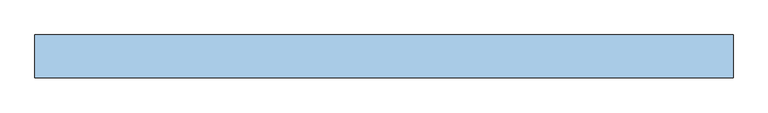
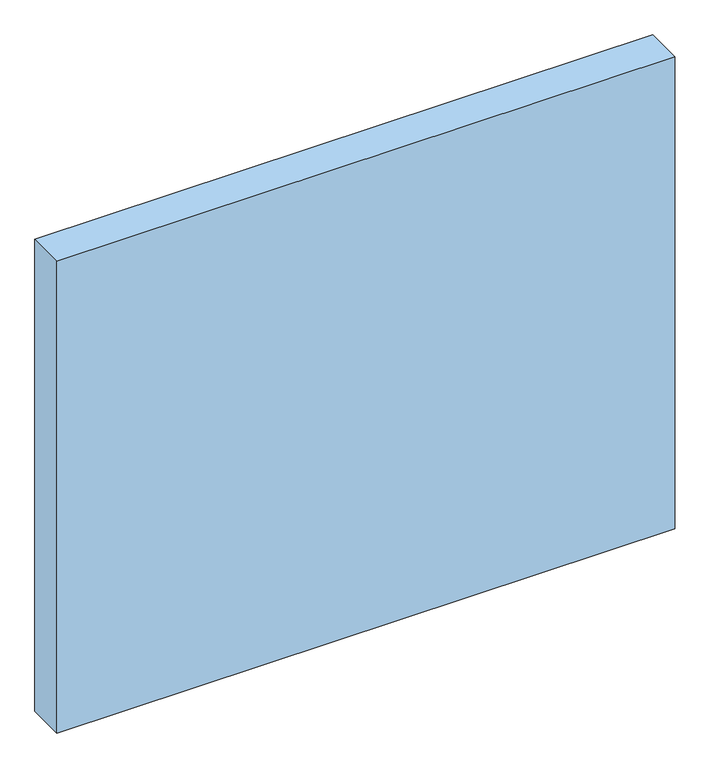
"""IFC4 building model written with IfcOpenShell, lengths in millimetres: window geometry, Dr_Проем-Четверти_окно : ОК."""

import ifcopenshell
import ifcopenshell.guid

model = None  # the IFC model being written
_history = None  # IfcOwnerHistory: only IFC2X3 demands one
_inside = {}  # id of a spatial element -> (the spatial element, [elements in it])
_under = {}  # id of a project, library or spatial element -> (it, [spatial elements below it])
_declared = {}  # id of a project -> (the project, [libraries it declares])
_typed = {}  # id of a type object -> (the type object, [elements of that type])
_made_of = {}  # id of a material, layer set ... -> (it, [elements and type objects made of it])


def new_model(schema):
    """Start an empty IFC model of exactly this schema.

    Asked for "IFC4X3", IfcOpenShell would pick the latest addendum, in which some entities
    have other attributes; the version numbers below select the first issue.
    IFC2X3 requires an IfcOwnerHistory on every rooted entity: one is made here for all.
    """
    global model, _history
    if schema == "IFC4X3":
        model = ifcopenshell.file(schema_version=(4, 3, 0, 0))
    else:
        model = ifcopenshell.file(schema=schema)
    _inside.clear()
    _under.clear()
    _declared.clear()
    _typed.clear()
    _made_of.clear()
    _history = None
    if model.schema == "IFC2X3":
        org = make("IfcOrganization", Name="unknown")
        user = make(
            "IfcPersonAndOrganization",
            ThePerson=make("IfcPerson", FamilyName="unknown"),
            TheOrganization=org,
        )
        app = make(
            "IfcApplication",
            ApplicationDeveloper=org,
            Version="unknown",
            ApplicationFullName="unknown",
            ApplicationIdentifier="unknown",
        )
        _history = make(
            "IfcOwnerHistory",
            OwningUser=user,
            OwningApplication=app,
            ChangeAction="ADDED",
            CreationDate=0,
        )
    return model


def make(cls, **values):
    """One entity of the class cls with the attributes given. An attribute that is None is left unset."""
    return model.create_entity(
        cls, **{name: value for name, value in values.items() if value is not None}
    )


def rooted(cls, **values):
    """An entity with a GlobalId (a new one), such as an element, a storey or a relation."""
    return make(cls, GlobalId=ifcopenshell.guid.new(), OwnerHistory=_history, **values)


def si_unit(unit_type, name, prefix=None):
    """IfcSIUnit, for example si_unit("LENGTHUNIT", "METRE", prefix="MILLI")."""
    return make("IfcSIUnit", UnitType=unit_type, Prefix=prefix, Name=name)


def assignment(units):
    """IfcUnitAssignment: the units of a project."""
    return None if units is None else make("IfcUnitAssignment", Units=units)


def point(xyz):
    """IfcCartesianPoint."""
    return None if xyz is None else make("IfcCartesianPoint", Coordinates=xyz)


def direction(xyz):
    """IfcDirection."""
    return None if xyz is None else make("IfcDirection", DirectionRatios=xyz)


def frame(location, z_axis=None, x_axis=None):
    """IfcAxis2Placement3D, a coordinate frame: its origin and axes. An axis left out is left unset."""
    return make(
        "IfcAxis2Placement3D",
        Location=point(location),
        Axis=direction(z_axis),
        RefDirection=direction(x_axis),
    )


def origin():
    """The frame at (0, 0, 0) with its axes left unset."""
    return frame((0.0, 0.0, 0.0))


def place(relative_to, where):
    """IfcLocalPlacement: puts the frame where relative to a parent placement (None: the world)."""
    return make(
        "IfcLocalPlacement", PlacementRelTo=relative_to, RelativePlacement=where
    )


def context(
    kind, dimensions, precision=None, world=None, true_north=None, identifier=None
):
    """IfcGeometricRepresentationContext, for example the 3D "Model" context."""
    return make(
        "IfcGeometricRepresentationContext",
        ContextIdentifier=identifier,
        ContextType=kind,
        CoordinateSpaceDimension=dimensions,
        Precision=precision,
        WorldCoordinateSystem=world,
        TrueNorth=true_north,
    )


def project(units=None, contexts=None):
    """IfcProject with its units and contexts."""
    return rooted(
        "IfcProject",
        Name="project",
        RepresentationContexts=contexts,
        UnitsInContext=assignment(units),
    )


def spatial(cls, under=None, at=None, **own):
    """A site, building, storey or space (cls), placed at a placement, below another one or the project."""
    s = rooted(cls, ObjectPlacement=at, **own)
    if under is not None:
        _under.setdefault(under.id(), (under, []))[1].append(s)
    return s


def polyline(points):
    """IfcPolyline through the points."""
    return make("IfcPolyline", Points=[point(p) for p in points])


def outline(outer, holes=None, kind="AREA"):
    """IfcArbitraryClosedProfileDef: a profile drawn as a closed curve; with holes, ...WithVoids."""
    if holes is None:
        return make("IfcArbitraryClosedProfileDef", ProfileType=kind, OuterCurve=outer)
    return make(
        "IfcArbitraryProfileDefWithVoids",
        ProfileType=kind,
        OuterCurve=outer,
        InnerCurves=holes,
    )


def extrude(swept, where, along, depth):
    """IfcExtrudedAreaSolid: the profile swept, set in the frame where, extruded along a direction by depth."""
    return make(
        "IfcExtrudedAreaSolid",
        SweptArea=swept,
        Position=where,
        ExtrudedDirection=direction(along),
        Depth=depth,
    )


def shape(context_of_items, identifier, shape_type, items):
    """IfcShapeRepresentation: the items that make up one representation, for example the "Body"."""
    return make(
        "IfcShapeRepresentation",
        ContextOfItems=context_of_items,
        RepresentationIdentifier=identifier,
        RepresentationType=shape_type,
        Items=items,
    )


def source(mapping_origin, context_of_items, identifier, shape_type, items):
    """IfcRepresentationMap: a shape defined once, which mapped items show again and again."""
    return make(
        "IfcRepresentationMap",
        MappingOrigin=mapping_origin,
        MappedRepresentation=shape(context_of_items, identifier, shape_type, items),
    )


def transform(
    local_origin,
    x_axis=None,
    y_axis=None,
    z_axis=None,
    scale=None,
    scale2=None,
    scale3=None,
    uniform=True,
):
    """IfcCartesianTransformationOperator3D, or its non-uniform kind. x_axis, y_axis, z_axis: its Axis1, 2, 3."""
    if uniform:
        return make(
            "IfcCartesianTransformationOperator3D",
            Axis1=direction(x_axis),
            Axis2=direction(y_axis),
            LocalOrigin=point(local_origin),
            Scale=scale,
            Axis3=direction(z_axis),
        )
    return make(
        "IfcCartesianTransformationOperator3DnonUniform",
        Axis1=direction(x_axis),
        Axis2=direction(y_axis),
        LocalOrigin=point(local_origin),
        Scale=scale,
        Axis3=direction(z_axis),
        Scale2=scale2,
        Scale3=scale3,
    )


def mapped(mapping_source, mapping_target):
    """IfcMappedItem: shows the shape of a source again, moved by a transform."""
    return make(
        "IfcMappedItem", MappingSource=mapping_source, MappingTarget=mapping_target
    )


def made_of(thing, what):
    """Note that an element or type object is made of a material, layer set ...; save() writes the relation."""
    if what is not None:
        _made_of.setdefault(what.id(), (what, []))[1].append(thing)
    return thing


def element(
    cls,
    number,
    at=None,
    inside=None,
    cuts=None,
    type_object=None,
    material=None,
    context=None,
    identifier="Body",
    shape_type=None,
    held_by="IfcProductDefinitionShape",
    body=None,
    shapes=None,
    **own,
):
    """One element of the class cls, such as IfcWall. Its Tag is "e" and its number.

    at: its placement. inside: the storey or other place that contains it. cuts: it is an
    opening in that element (IfcRelVoidsElement). A single representation is given by context,
    identifier, shape_type and body (its items); several are given by shapes. held_by: the class
    of the entity that holds the representations. save() writes the other relations.
    """
    e = rooted(cls, Tag="e%d" % number, ObjectPlacement=at, **own)
    if body is not None:
        shapes = [shape(context, identifier, shape_type, body)]
    if shapes is not None:
        e.Representation = make(held_by, Representations=shapes)
    if inside is not None:
        _inside.setdefault(inside.id(), (inside, []))[1].append(e)
    if cuts is not None:
        rooted(
            "IfcRelVoidsElement", RelatingBuildingElement=cuts, RelatedOpeningElement=e
        )
    if type_object is not None:
        _typed.setdefault(type_object.id(), (type_object, []))[1].append(e)
    return made_of(e, material)


def aggregate(whole, parts):
    """IfcRelAggregates: a whole, such as a stair, and the parts it consists of."""
    return rooted("IfcRelAggregates", RelatingObject=whole, RelatedObjects=parts)


def save(model, path):
    """Write the relations noted so far, then the file.

    IfcRelAggregates (storeys below a building ...), IfcRelContainedInSpatialStructure (elements
    in a storey), IfcRelDefinesByType, IfcRelAssociatesMaterial and IfcRelDeclares: one each for
    every whole, place, type object, material and project.
    """
    for whole, parts in _under.values():
        aggregate(whole, parts)
    for where, things in _inside.values():
        rooted(
            "IfcRelContainedInSpatialStructure",
            RelatedElements=things,
            RelatingStructure=where,
        )
    for kind, things in _typed.values():
        rooted("IfcRelDefinesByType", RelatedObjects=things, RelatingType=kind)
    for what, things in _made_of.values():
        rooted("IfcRelAssociatesMaterial", RelatedObjects=things, RelatingMaterial=what)
    for by, libraries in _declared.values():
        rooted("IfcRelDeclares", RelatingContext=by, RelatedDefinitions=libraries)
    model.write(path)


def window_98b2063b(model_context):
    return source(origin(), model_context, "Body", "SweptSolid", [
        extrude(outline(polyline([(1355.0, -50.0), (-1085.0, -50.0), (-1085.0, 100.0), (1355.0, 100.0), (1355.0, -50.0)])), frame((0.0, 0.0, -60.0), z_axis=(0.0, 0.0, 1.0), x_axis=(1.0, 0.0, 0.0)), (0.0, 0.0, 1.0), 1970.0),
    ])


if __name__ == "__main__":
    model = new_model("IFC4")
    model_context = context("Model", 3, world=origin())
    ifc_project = project(units=[si_unit("LENGTHUNIT", "METRE", prefix="MILLI")], contexts=[model_context])
    site = spatial("IfcSite", under=ifc_project)
    building = spatial("IfcBuilding", under=site)
    placement = place(None, origin())
    window_shape = window_98b2063b(model_context)
    element("IfcWindow", 1, ObjectType="Dr_Проем-Четверти_окно : ОК", at=placement, inside=building, context=model_context, shape_type="MappedRepresentation", body=[
        mapped(window_shape, transform((0.0, 0.0, 0.0), x_axis=(1.0, 0.0, 0.0), y_axis=(0.0, 1.0, 0.0), z_axis=(0.0, 0.0, 1.0))),
    ])
    save(model, "model.ifc")
